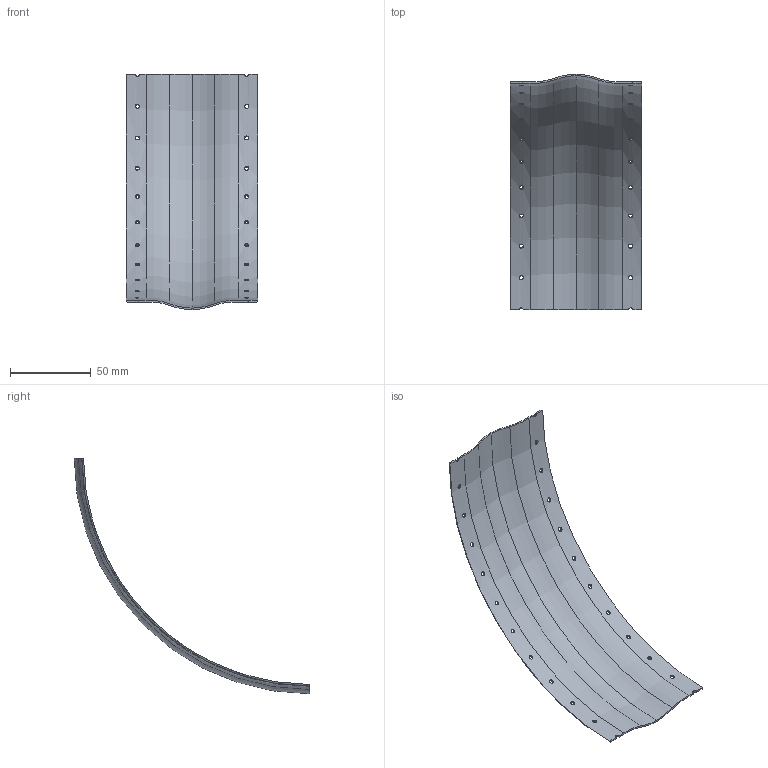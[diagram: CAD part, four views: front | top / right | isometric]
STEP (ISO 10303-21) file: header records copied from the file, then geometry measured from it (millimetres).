
FILE_DESCRIPTION(/* description */ (''),/* implementation_level */ '2;1');
FILE_NAME(/* name */ 'bez.step',/* time_stamp */ '2023-10-29T00:34:18+03:00',/* author */ (''),/* organization */ (''),/* preprocessor_version */ 'ST-DEVELOPER v20',/* originating_system */ 'Autodesk Translation Framework v12.14.0.127',/* authorisation */ '');
FILE_SCHEMA (('AUTOMOTIVE_DESIGN { 1 0 10303 214 3 1 1 }'));
Length unit declared in the file: millimetre
Products named in the file (1): FusionComponent
Bounding box: 81.14 x 145.49 x 145.49 mm (x, y, z)
Volume: 17847.6 mm3; surface area: 37020.3 mm2
Topology: 1 solids, 1 shells, 46 faces, 172 edges, 128 vertices
Faces by surface type: cylinder 28, torus 12, plane 6
Full cylindrical faces by diameter (mm): 2.5 x10, 2.6 x10
Entity records: 3320 total; most frequent: CARTESIAN_POINT 1847, ORIENTED_EDGE 344, DIRECTION 218, EDGE_CURVE 172, VERTEX_POINT 128, B_SPLINE_CURVE_WITH_KNOTS 88, AXIS2_PLACEMENT_3D 87, EDGE_LOOP 86
